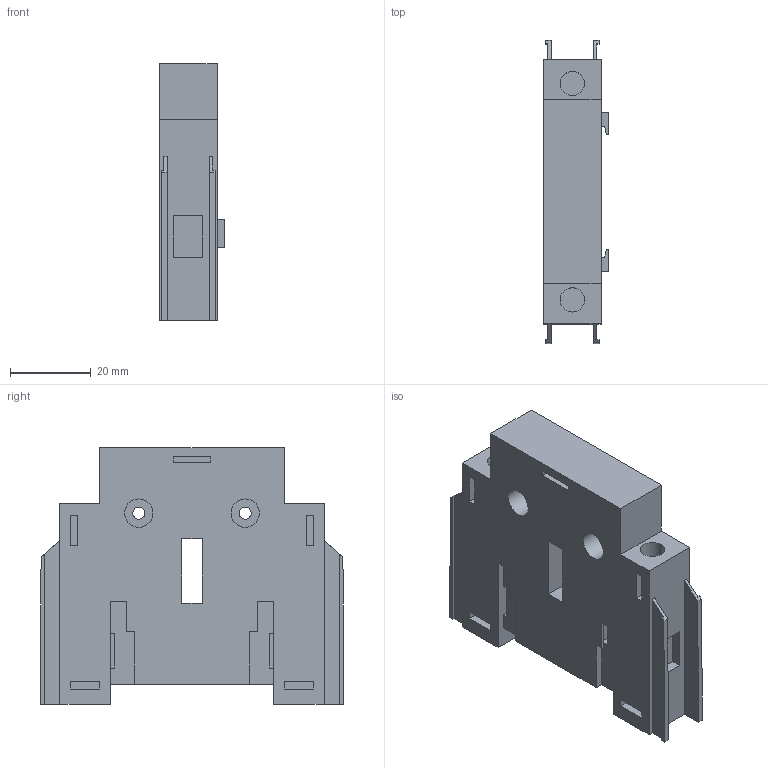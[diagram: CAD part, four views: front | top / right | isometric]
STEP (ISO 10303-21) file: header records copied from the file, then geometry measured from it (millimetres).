
FILE_DESCRIPTION (( 'STEP AP203' ), '1' );
FILE_NAME ('Ïîëþñ çàçåìëåíèÿ OptiSwitch DI-16-63; Ïîëþñ íåéòðàëè OptiSwitch DI-16-63 (äëÿ OptiSwitch DI-16-63Ñ_ñëåâà).SLDASM.STEP', '2023-03-23T19:00:21', ( 'Ïîëüçîâàòåëü' ), ( '' ), 'SwSTEP 2.0', 'SolidWorks 2018', '' );
FILE_SCHEMA (( 'CONFIG_CONTROL_DESIGN' ));
Length unit declared in the file: millimetre
Products named in the file (2): Ïîëþñ çàçåìëåíèÿ OptiSwitch DI-16-63; Ïîëþñ íåéòðàëè OptiSwitch DI-16-63 (äëÿ OptiSwitch DI-16-63Ñ_ñëåâà).SLDASM; Ïîëþñ çàçåìëåíèÿ OptiSwitch DI-16-63; Ïîëþñ íåéòðàëè OptiSwitch DI-16-63
Assembly tree (1 placements, depth 2):
  Ïîëþñ çàçåìëåíèÿ OptiSwitch DI-16-63; Ïîëþñ íåéòðàëè OptiSwitch DI-16-63 (äëÿ OptiSwitch DI-16-63Ñ_ñëåâà).SLDASM
    Ïîëþñ çàçåìëåíèÿ OptiSwitch DI-16-63; Ïîëþñ íåéòðàëè OptiSwitch DI-16-63
Bounding box: 16 x 75.1 x 63.5 mm (x, y, z)
Volume: 48405.6 mm3; surface area: 16035.6 mm2
Topology: 1 solids, 1 shells, 180 faces, 458 edges, 304 vertices
Faces by surface type: plane 170, cylinder 10
Full cylindrical faces by diameter (mm): 3 x2, 6 x4, 7 x2, 8 x2
Entity records: 5470 total; most frequent: CARTESIAN_POINT 932, ORIENTED_EDGE 892, DIRECTION 834, EDGE_CURVE 446, VECTOR 426, LINE 426, VERTEX_POINT 302, EDGE_LOOP 220
